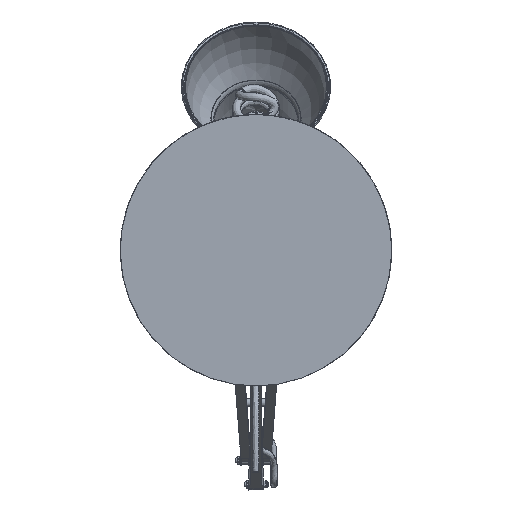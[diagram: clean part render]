
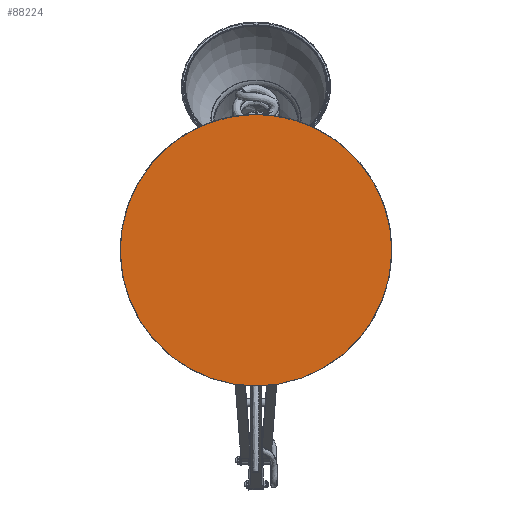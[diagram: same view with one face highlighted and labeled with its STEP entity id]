
A CAD part, front view. The second image highlights one B-rep face of the part: STEP entity #88224.
In plain terms, the highlighted planar face has unit normal (0, -1, 0).
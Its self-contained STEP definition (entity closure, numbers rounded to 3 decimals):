
#4295 = CARTESIAN_POINT ( 'NONE',  ( 6.175, -482.797, 7.542 ) ) ;
#5655 = CIRCLE ( 'NONE', #12607, 128. ) ;
#11937 = DIRECTION ( 'NONE',  ( 0., 1., 0. ) ) ;
#12607 = AXIS2_PLACEMENT_3D ( 'NONE', #13759, #67035, #21435 ) ;
#13759 = CARTESIAN_POINT ( 'NONE',  ( 6.175, -482.797, 7.542 ) ) ;
#21435 = DIRECTION ( 'NONE',  ( 0.897, 0., 0.441 ) ) ;
#28204 = AXIS2_PLACEMENT_3D ( 'NONE', #4295, #11937, #65183 ) ;
#28809 = EDGE_CURVE ( 'NONE', #42554, #42554, #5655, .T. ) ;
#42554 = VERTEX_POINT ( 'NONE', #76898 ) ;
#49595 = PLANE ( 'NONE',  #28204 ) ;
#51483 = ORIENTED_EDGE ( 'NONE', *, *, #28809, .F. ) ;
#65183 = DIRECTION ( 'NONE',  ( 0.897, 0., 0.441 ) ) ;
#67035 = DIRECTION ( 'NONE',  ( 0., 1., 0. ) ) ;
#76898 = CARTESIAN_POINT ( 'NONE',  ( 121.029, -482.797, 64.045 ) ) ;
#78111 = FACE_OUTER_BOUND ( 'NONE', #88293, .T. ) ;
#88224 = ADVANCED_FACE ( 'Defeatured_1_1551', ( #78111 ), #49595, .F. ) ;
#88293 = EDGE_LOOP ( 'NONE', ( #51483 ) ) ;
